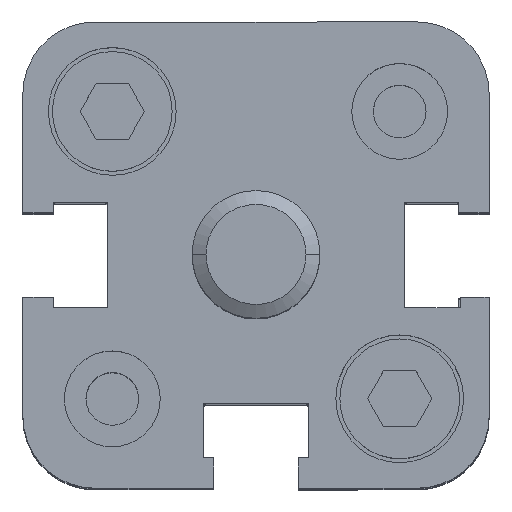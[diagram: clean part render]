
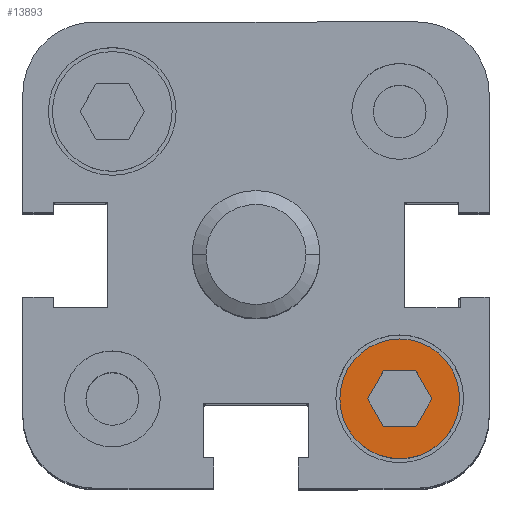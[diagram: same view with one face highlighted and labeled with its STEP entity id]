
A CAD part, top view. The second image highlights one B-rep face of the part: STEP entity #13893.
In plain terms, the highlighted planar face has unit normal (0, 0, 1).
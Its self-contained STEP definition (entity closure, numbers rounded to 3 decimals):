
#5677 = DIRECTION ( 'NONE',  ( -1., 0., 0. ) ) ;
#5678 = VECTOR ( 'NONE', #5677, 1000. ) ;
#5679 = CARTESIAN_POINT ( 'NONE',  ( 10.01, -10.75, 13.5 ) ) ;
#5680 = LINE ( 'NONE', #5679, #5678 ) ;
#8500 = DIRECTION ( 'NONE',  ( 0.866, 0.5, 0. ) ) ;
#8501 = DIRECTION ( 'NONE',  ( 0., 0., 1. ) ) ;
#8502 = CARTESIAN_POINT ( 'NONE',  ( 9., -9., 13.5 ) ) ;
#8503 = AXIS2_PLACEMENT_3D ( 'NONE', #8502, #8501, #8500 ) ;
#8504 = CIRCLE ( 'NONE', #8503, 3.75 ) ;
#9295 = DIRECTION ( 'NONE',  ( 0.866, 0.5, 0. ) ) ;
#9296 = DIRECTION ( 'NONE',  ( 0., 0., 1. ) ) ;
#9297 = CARTESIAN_POINT ( 'NONE',  ( 9., -9., 13.5 ) ) ;
#9298 = AXIS2_PLACEMENT_3D ( 'NONE', #9297, #9296, #9295 ) ;
#9299 = PLANE ( 'NONE',  #9298 ) ;
#9300 = FACE_BOUND ( 'NONE', #13414, .T. ) ;
#9301 = FACE_OUTER_BOUND ( 'NONE', #13452, .T. ) ;
#11815 = EDGE_CURVE ( 'NONE', #13956, #14190, #5680, .T. ) ;
#11821 = ORIENTED_EDGE ( 'NONE', *, *, #11815, .T. ) ;
#13414 = EDGE_LOOP ( 'NONE', ( #14097, #14076, #14046, #13998, #11821, #14192 ) ) ;
#13421 = ORIENTED_EDGE ( 'NONE', *, *, #13422, .T. ) ;
#13422 = EDGE_CURVE ( 'NONE', #14137, #14094, #8504, .T. ) ;
#13438 = ORIENTED_EDGE ( 'NONE', *, *, #14123, .T. ) ;
#13452 = EDGE_LOOP ( 'NONE', ( #13438, #13421 ) ) ;
#13893 = ADVANCED_FACE ( 'NONE', ( #9301, #9300 ), #9299, .T. ) ;
#13956 = VERTEX_POINT ( 'NONE', #14654 ) ;
#13975 = VERTEX_POINT ( 'NONE', #14685 ) ;
#13986 = VERTEX_POINT ( 'NONE', #14736 ) ;
#13996 = VERTEX_POINT ( 'NONE', #14721 ) ;
#13998 = ORIENTED_EDGE ( 'NONE', *, *, #14005, .T. ) ;
#14005 = EDGE_CURVE ( 'NONE', #13975, #13956, #14778, .T. ) ;
#14045 = EDGE_CURVE ( 'NONE', #13975, #13996, #14820, .T. ) ;
#14046 = ORIENTED_EDGE ( 'NONE', *, *, #14045, .F. ) ;
#14066 = VERTEX_POINT ( 'NONE', #14858 ) ;
#14075 = EDGE_CURVE ( 'NONE', #14066, #13996, #14903, .T. ) ;
#14076 = ORIENTED_EDGE ( 'NONE', *, *, #14075, .T. ) ;
#14092 = EDGE_CURVE ( 'NONE', #14066, #13986, #14879, .T. ) ;
#14094 = VERTEX_POINT ( 'NONE', #14935 ) ;
#14097 = ORIENTED_EDGE ( 'NONE', *, *, #14092, .F. ) ;
#14123 = EDGE_CURVE ( 'NONE', #14094, #14137, #14971, .T. ) ;
#14137 = VERTEX_POINT ( 'NONE', #14953 ) ;
#14190 = VERTEX_POINT ( 'NONE', #15020 ) ;
#14192 = ORIENTED_EDGE ( 'NONE', *, *, #14193, .F. ) ;
#14193 = EDGE_CURVE ( 'NONE', #13986, #14190, #15013, .T. ) ;
#14654 = CARTESIAN_POINT ( 'NONE',  ( 10.01, -10.75, 13.5 ) ) ;
#14685 = CARTESIAN_POINT ( 'NONE',  ( 11.021, -9., 13.5 ) ) ;
#14721 = CARTESIAN_POINT ( 'NONE',  ( 10.01, -7.25, 13.5 ) ) ;
#14736 = CARTESIAN_POINT ( 'NONE',  ( 6.979, -9., 13.5 ) ) ;
#14770 = DIRECTION ( 'NONE',  ( -0.5, -0.866, 0. ) ) ;
#14771 = VECTOR ( 'NONE', #14770, 1000. ) ;
#14772 = CARTESIAN_POINT ( 'NONE',  ( 11.021, -9., 13.5 ) ) ;
#14778 = LINE ( 'NONE', #14772, #14771 ) ;
#14817 = DIRECTION ( 'NONE',  ( -0.5, 0.866, 0. ) ) ;
#14818 = VECTOR ( 'NONE', #14817, 1000. ) ;
#14819 = CARTESIAN_POINT ( 'NONE',  ( 11.021, -9., 13.5 ) ) ;
#14820 = LINE ( 'NONE', #14819, #14818 ) ;
#14858 = CARTESIAN_POINT ( 'NONE',  ( 7.99, -7.25, 13.5 ) ) ;
#14876 = DIRECTION ( 'NONE',  ( -0.5, -0.866, 0. ) ) ;
#14877 = VECTOR ( 'NONE', #14876, 1000. ) ;
#14878 = CARTESIAN_POINT ( 'NONE',  ( 7.99, -7.25, 13.5 ) ) ;
#14879 = LINE ( 'NONE', #14878, #14877 ) ;
#14900 = DIRECTION ( 'NONE',  ( 1., 0., 0. ) ) ;
#14901 = VECTOR ( 'NONE', #14900, 1000. ) ;
#14902 = CARTESIAN_POINT ( 'NONE',  ( 7.99, -7.25, 13.5 ) ) ;
#14903 = LINE ( 'NONE', #14902, #14901 ) ;
#14935 = CARTESIAN_POINT ( 'NONE',  ( 12.248, -7.125, 13.5 ) ) ;
#14953 = CARTESIAN_POINT ( 'NONE',  ( 5.752, -10.875, 13.5 ) ) ;
#14967 = DIRECTION ( 'NONE',  ( 0.866, 0.5, 0. ) ) ;
#14968 = DIRECTION ( 'NONE',  ( 0., 0., 1. ) ) ;
#14969 = CARTESIAN_POINT ( 'NONE',  ( 9., -9., 13.5 ) ) ;
#14970 = AXIS2_PLACEMENT_3D ( 'NONE', #14969, #14968, #14967 ) ;
#14971 = CIRCLE ( 'NONE', #14970, 3.75 ) ;
#15010 = DIRECTION ( 'NONE',  ( 0.5, -0.866, 0. ) ) ;
#15011 = VECTOR ( 'NONE', #15010, 1000. ) ;
#15012 = CARTESIAN_POINT ( 'NONE',  ( 6.979, -9., 13.5 ) ) ;
#15013 = LINE ( 'NONE', #15012, #15011 ) ;
#15020 = CARTESIAN_POINT ( 'NONE',  ( 7.99, -10.75, 13.5 ) ) ;
